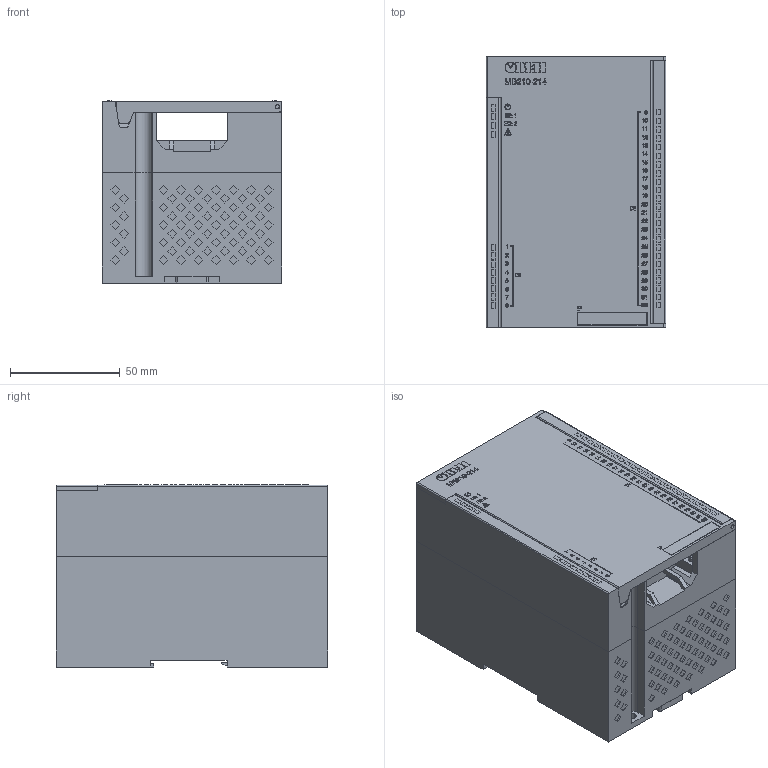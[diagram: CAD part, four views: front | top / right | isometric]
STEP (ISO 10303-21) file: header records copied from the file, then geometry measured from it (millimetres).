
FILE_DESCRIPTION (( 'STEP AP203' ), '1' );
FILE_NAME ('3D 沓麧錪 斨210-214.STEP', '2020-08-17T07:42:07', ( '' ), ( '' ), 'SwSTEP 2.0', 'SolidWorks 2015', '' );
FILE_SCHEMA (( 'CONFIG_CONTROL_DESIGN' ));
Length unit declared in the file: millimetre
Products named in the file (9): 婰膲僗闉 斨210; Ðîçåòêà ÌÂ210 — ëåâàÿ; 扻豵鵨 斨210_00; Êëåììíèê 2çåë; 署赅 搪210_00; Ðîçåòêà ÌÂ210; micro usb b; 3D 沓麧錪 斨210-214; Ethernet
Assembly tree (9 placements, depth 2):
  3D 沓麧錪 斨210-214
    扻豵鵨 斨210_00
    婰膲僗闉 斨210
    Ðîçåòêà ÌÂ210
    Ðîçåòêà ÌÂ210 — ëåâàÿ
    署赅 搪210_00
    micro usb b
    Ethernet  x2
    Êëåììíèê 2çåë
Bounding box: 82 x 124.04 x 83.1 mm (x, y, z)
Volume: 728875.9 mm3; surface area: 135421.7 mm2
Topology: 55 solids, 55 shells, 11659 faces, 32979 edges, 22048 vertices
Faces by surface type: plane 11230, cylinder 212, torus 133, cone 84
Entity records: 370883 total; most frequent: CARTESIAN_POINT 68383, ORIENTED_EDGE 65718, DIRECTION 56520, EDGE_CURVE 32859, LINE 31398, VECTOR 31398, VERTEX_POINT 21968, AXIS2_PLACEMENT_3D 12561
